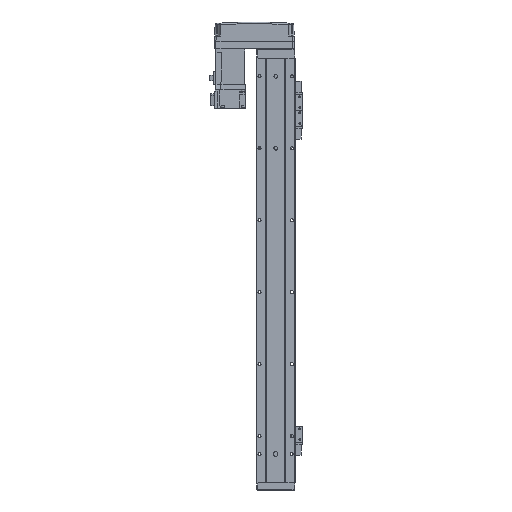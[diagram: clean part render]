
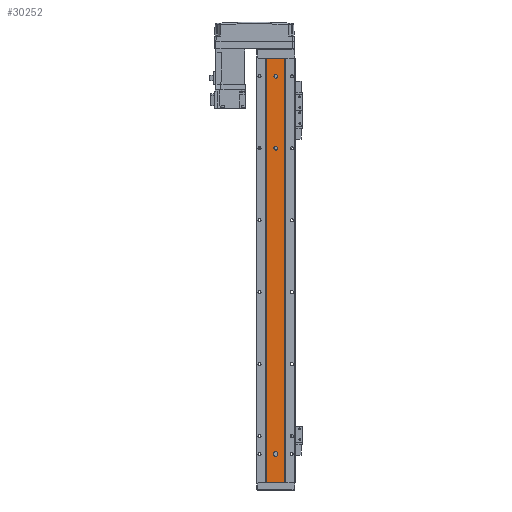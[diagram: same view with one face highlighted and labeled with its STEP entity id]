
A CAD part, front view. The second image highlights one B-rep face of the part: STEP entity #30252.
In plain terms, the highlighted planar face has unit normal (0, -1, 0).
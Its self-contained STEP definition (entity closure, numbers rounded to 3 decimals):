
#292 = CARTESIAN_POINT ( 'NONE',  ( -2.5, 1.5, -125. ) ) ;
#644 = EDGE_LOOP ( 'NONE', ( #8017, #4570 ) ) ;
#934 = CARTESIAN_POINT ( 'NONE',  ( -2.5, 1.5, -551. ) ) ;
#1808 = CARTESIAN_POINT ( 'NONE',  ( -2.5, 1.5, -590. ) ) ;
#1878 = EDGE_CURVE ( 'NONE', #13510, #31619, #4700, .T. ) ;
#2332 = ORIENTED_EDGE ( 'NONE', *, *, #20371, .F. ) ;
#2757 = LINE ( 'NONE', #15766, #31855 ) ;
#2982 = VECTOR ( 'NONE', #33279, 1000. ) ;
#3962 = EDGE_CURVE ( 'NONE', #5028, #4195, #2757, .T. ) ;
#4141 = CIRCLE ( 'NONE', #11997, 2.5 ) ;
#4195 = VERTEX_POINT ( 'NONE', #21943 ) ;
#4225 = EDGE_CURVE ( 'NONE', #34492, #31311, #34175, .T. ) ;
#4570 = ORIENTED_EDGE ( 'NONE', *, *, #17798, .F. ) ;
#4700 = LINE ( 'NONE', #30623, #12635 ) ;
#4833 = DIRECTION ( 'NONE',  ( 0., 0., -1. ) ) ;
#5028 = VERTEX_POINT ( 'NONE', #36228 ) ;
#5069 = DIRECTION ( 'NONE',  ( 0., -1., 0. ) ) ;
#5283 = ORIENTED_EDGE ( 'NONE', *, *, #17725, .F. ) ;
#5894 = CARTESIAN_POINT ( 'NONE',  ( 2.5, 1.5, -125. ) ) ;
#6116 = AXIS2_PLACEMENT_3D ( 'NONE', #24359, #21668, #9409 ) ;
#6918 = EDGE_CURVE ( 'NONE', #31311, #4195, #13788, .T. ) ;
#7194 = CARTESIAN_POINT ( 'NONE',  ( -12.293, 1.5, -590. ) ) ;
#8017 = ORIENTED_EDGE ( 'NONE', *, *, #32628, .F. ) ;
#8420 = CARTESIAN_POINT ( 'NONE',  ( -2.5, 1.5, -549. ) ) ;
#8816 = DIRECTION ( 'NONE',  ( 1., 0., 0. ) ) ;
#9361 = VECTOR ( 'NONE', #8816, 1000. ) ;
#9409 = DIRECTION ( 'NONE',  ( 1., 0., 0. ) ) ;
#9829 = CARTESIAN_POINT ( 'NONE',  ( 0., 1.5, -25. ) ) ;
#10329 = ORIENTED_EDGE ( 'NONE', *, *, #4225, .F. ) ;
#10755 = AXIS2_PLACEMENT_3D ( 'NONE', #9829, #22322, #25292 ) ;
#11060 = EDGE_CURVE ( 'NONE', #34492, #5028, #32370, .T. ) ;
#11997 = AXIS2_PLACEMENT_3D ( 'NONE', #31960, #5069, #26409 ) ;
#12026 = ORIENTED_EDGE ( 'NONE', *, *, #11060, .T. ) ;
#12182 = EDGE_LOOP ( 'NONE', ( #35379, #10329, #12026, #33077 ) ) ;
#12461 = ORIENTED_EDGE ( 'NONE', *, *, #1878, .F. ) ;
#12536 = CARTESIAN_POINT ( 'NONE',  ( 12.293, 1.5, 0. ) ) ;
#12573 = CARTESIAN_POINT ( 'NONE',  ( -12.293, 1.5, 0. ) ) ;
#12635 = VECTOR ( 'NONE', #30365, 1000. ) ;
#12647 = DIRECTION ( 'NONE',  ( 1., 0., 0. ) ) ;
#12753 = VERTEX_POINT ( 'NONE', #22364 ) ;
#12984 = VECTOR ( 'NONE', #23073, 1000. ) ;
#13051 = CIRCLE ( 'NONE', #31120, 2.5 ) ;
#13510 = VERTEX_POINT ( 'NONE', #20089 ) ;
#13665 = AXIS2_PLACEMENT_3D ( 'NONE', #17514, #26819, #23443 ) ;
#13788 = LINE ( 'NONE', #12536, #2982 ) ;
#14207 = CARTESIAN_POINT ( 'NONE',  ( -12.293, 1.5, -590. ) ) ;
#15164 = AXIS2_PLACEMENT_3D ( 'NONE', #21907, #15783, #35853 ) ;
#15519 = EDGE_CURVE ( 'NONE', #31619, #31217, #34689, .T. ) ;
#15766 = CARTESIAN_POINT ( 'NONE',  ( 12.293, 1.5, -590. ) ) ;
#15783 = DIRECTION ( 'NONE',  ( 0., -1., 0. ) ) ;
#16546 = FACE_OUTER_BOUND ( 'NONE', #12182, .T. ) ;
#17514 = CARTESIAN_POINT ( 'NONE',  ( 0., 1.5, -25. ) ) ;
#17725 = EDGE_CURVE ( 'NONE', #31005, #12753, #24460, .T. ) ;
#17798 = EDGE_CURVE ( 'NONE', #31433, #35591, #34772, .T. ) ;
#18345 = PLANE ( 'NONE',  #6116 ) ;
#19820 = CARTESIAN_POINT ( 'NONE',  ( 2.5, 1.5, -549. ) ) ;
#20089 = CARTESIAN_POINT ( 'NONE',  ( 2.5, 1.5, -551. ) ) ;
#20371 = EDGE_CURVE ( 'NONE', #31217, #26864, #38404, .T. ) ;
#21149 = CARTESIAN_POINT ( 'NONE',  ( 0., 1.5, -549. ) ) ;
#21668 = DIRECTION ( 'NONE',  ( 0., -1., 0. ) ) ;
#21907 = CARTESIAN_POINT ( 'NONE',  ( 0., 1.5, -125. ) ) ;
#21943 = CARTESIAN_POINT ( 'NONE',  ( 12.293, 1.5, 0. ) ) ;
#22183 = AXIS2_PLACEMENT_3D ( 'NONE', #21149, #36508, #12647 ) ;
#22322 = DIRECTION ( 'NONE',  ( 0., -1., 0. ) ) ;
#22364 = CARTESIAN_POINT ( 'NONE',  ( 2.5, 1.5, -25. ) ) ;
#22677 = ORIENTED_EDGE ( 'NONE', *, *, #15519, .F. ) ;
#23073 = DIRECTION ( 'NONE',  ( 0., 0., 1. ) ) ;
#23443 = DIRECTION ( 'NONE',  ( 1., 0., 0. ) ) ;
#23901 = VECTOR ( 'NONE', #4833, 1000. ) ;
#24359 = CARTESIAN_POINT ( 'NONE',  ( 12.293, 1.5, -590. ) ) ;
#24371 = ORIENTED_EDGE ( 'NONE', *, *, #28134, .F. ) ;
#24456 = DIRECTION ( 'NONE',  ( 0., 0., 1. ) ) ;
#24460 = CIRCLE ( 'NONE', #13665, 2.5 ) ;
#25292 = DIRECTION ( 'NONE',  ( 1., 0., 0. ) ) ;
#25400 = EDGE_LOOP ( 'NONE', ( #24371, #5283 ) ) ;
#25451 = CARTESIAN_POINT ( 'NONE',  ( 0., 1.5, -125. ) ) ;
#26120 = ORIENTED_EDGE ( 'NONE', *, *, #27764, .F. ) ;
#26409 = DIRECTION ( 'NONE',  ( 1., 0., 0. ) ) ;
#26754 = CARTESIAN_POINT ( 'NONE',  ( 12.293, 1.5, -590. ) ) ;
#26819 = DIRECTION ( 'NONE',  ( 0., -1., 0. ) ) ;
#26864 = VERTEX_POINT ( 'NONE', #934 ) ;
#27197 = EDGE_LOOP ( 'NONE', ( #26120, #2332, #22677, #12461 ) ) ;
#27764 = EDGE_CURVE ( 'NONE', #26864, #13510, #4141, .T. ) ;
#28134 = EDGE_CURVE ( 'NONE', #12753, #31005, #32721, .T. ) ;
#28787 = FACE_BOUND ( 'NONE', #25400, .T. ) ;
#30252 = ADVANCED_FACE ( 'NONE', ( #34857, #31616, #28787, #16546 ), #18345, .T. ) ;
#30365 = DIRECTION ( 'NONE',  ( 0., 0., 1. ) ) ;
#30623 = CARTESIAN_POINT ( 'NONE',  ( 2.5, 1.5, -590. ) ) ;
#31005 = VERTEX_POINT ( 'NONE', #34641 ) ;
#31120 = AXIS2_PLACEMENT_3D ( 'NONE', #25451, #34251, #31137 ) ;
#31137 = DIRECTION ( 'NONE',  ( 1., 0., 0. ) ) ;
#31217 = VERTEX_POINT ( 'NONE', #8420 ) ;
#31311 = VERTEX_POINT ( 'NONE', #12573 ) ;
#31433 = VERTEX_POINT ( 'NONE', #292 ) ;
#31616 = FACE_BOUND ( 'NONE', #644, .T. ) ;
#31619 = VERTEX_POINT ( 'NONE', #19820 ) ;
#31855 = VECTOR ( 'NONE', #24456, 1000. ) ;
#31960 = CARTESIAN_POINT ( 'NONE',  ( 0., 1.5, -551. ) ) ;
#32370 = LINE ( 'NONE', #26754, #9361 ) ;
#32628 = EDGE_CURVE ( 'NONE', #35591, #31433, #13051, .T. ) ;
#32721 = CIRCLE ( 'NONE', #10755, 2.5 ) ;
#33077 = ORIENTED_EDGE ( 'NONE', *, *, #3962, .T. ) ;
#33279 = DIRECTION ( 'NONE',  ( 1., 0., 0. ) ) ;
#34175 = LINE ( 'NONE', #7194, #12984 ) ;
#34251 = DIRECTION ( 'NONE',  ( 0., -1., 0. ) ) ;
#34492 = VERTEX_POINT ( 'NONE', #14207 ) ;
#34641 = CARTESIAN_POINT ( 'NONE',  ( -2.5, 1.5, -25. ) ) ;
#34689 = CIRCLE ( 'NONE', #22183, 2.5 ) ;
#34772 = CIRCLE ( 'NONE', #15164, 2.5 ) ;
#34857 = FACE_BOUND ( 'NONE', #27197, .T. ) ;
#35379 = ORIENTED_EDGE ( 'NONE', *, *, #6918, .F. ) ;
#35591 = VERTEX_POINT ( 'NONE', #5894 ) ;
#35853 = DIRECTION ( 'NONE',  ( 1., 0., 0. ) ) ;
#36228 = CARTESIAN_POINT ( 'NONE',  ( 12.293, 1.5, -590. ) ) ;
#36508 = DIRECTION ( 'NONE',  ( 0., -1., 0. ) ) ;
#38404 = LINE ( 'NONE', #1808, #23901 ) ;
